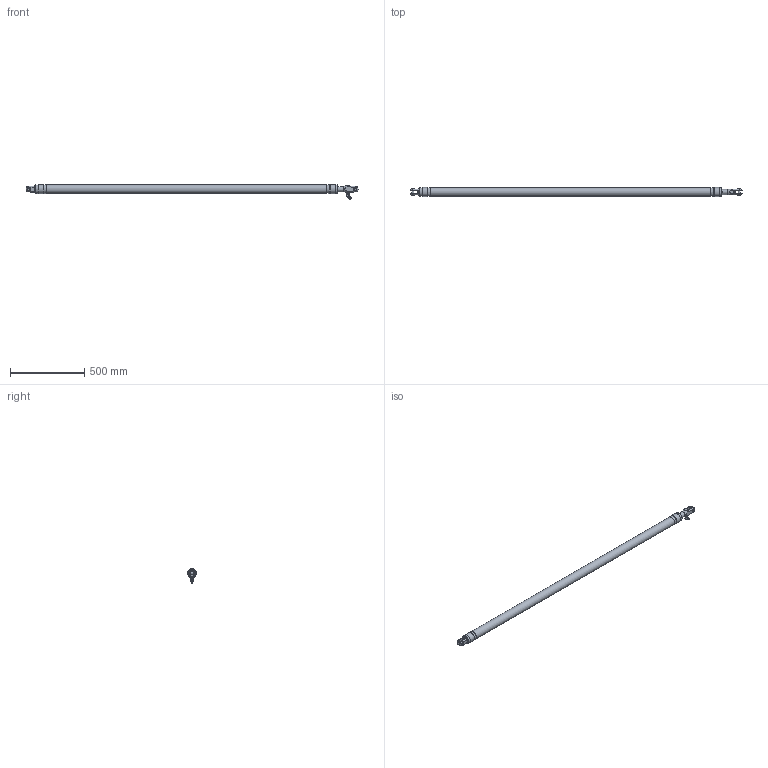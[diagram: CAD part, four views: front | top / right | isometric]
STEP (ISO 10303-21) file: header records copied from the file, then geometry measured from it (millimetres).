
FILE_DESCRIPTION(/* description */ (''),/* implementation_level */ '2;1');
FILE_NAME(/* name */ 'Q:\AA BRAND HYDRAULICS\HYDRAULICS FAMILY DIRECTORY\HYDRAULICS\CYLINDERS\VANGS\ALUMINIUM SINGLE ACTING - STAINLESS ON REQUEST (-0010 To -0150)\VSA-0017-S275-NP-71-L2200\VSA-0017-S275-NP-71-L2200 (Closed).stp',/* time_stamp */ '2018-04-09T10:44:49+01:00',/* author */ ('Lorena'),/* organization */ (''),/* preprocessor_version */ 'ST-DEVELOPER v17',/* originating_system */ 'Autodesk Inventor 2018',/* authorisation */ '');
FILE_SCHEMA (('AUTOMOTIVE_DESIGN { 1 0 10303 214 3 1 1 }'));
Length unit declared in the file: millimetre
Products named in the file (1): VSA-0017-S275-NP-71-L2200 (Closed)
Bounding box: 2243.15 x 61.4 x 100.57 mm (x, y, z)
Volume: 5715586 mm3; surface area: 418562.6 mm2
Topology: 2 solids, 4 shells, 1755 faces, 4962 edges, 3293 vertices
Faces by surface type: plane 966, bspline 573, cone 137, cylinder 71, torus 4, sphere 4
Full cylindrical faces by diameter (mm): 4.2 x1, 5 x2, 5.1 x1, 5.9 x1, 11.157 x1, 11.5 x1, 11.8 x1, 12 x3, 12.157 x1, 12.5 x1, 12.77 x1, 13 x1, 13.157 x2, 14.5 x2, 15.88 x2, 18.3 x3, 19.85 x2, 22 x1, 35 x1, 58.4 x1, 59.4 x1, 61.4 x3
Entity records: 66305 total; most frequent: CARTESIAN_POINT 23181, ORIENTED_EDGE 9912, DIRECTION 6404, EDGE_CURVE 4956, VERTEX_POINT 3294, LINE 2992, VECTOR 2992, EDGE_LOOP 1872
